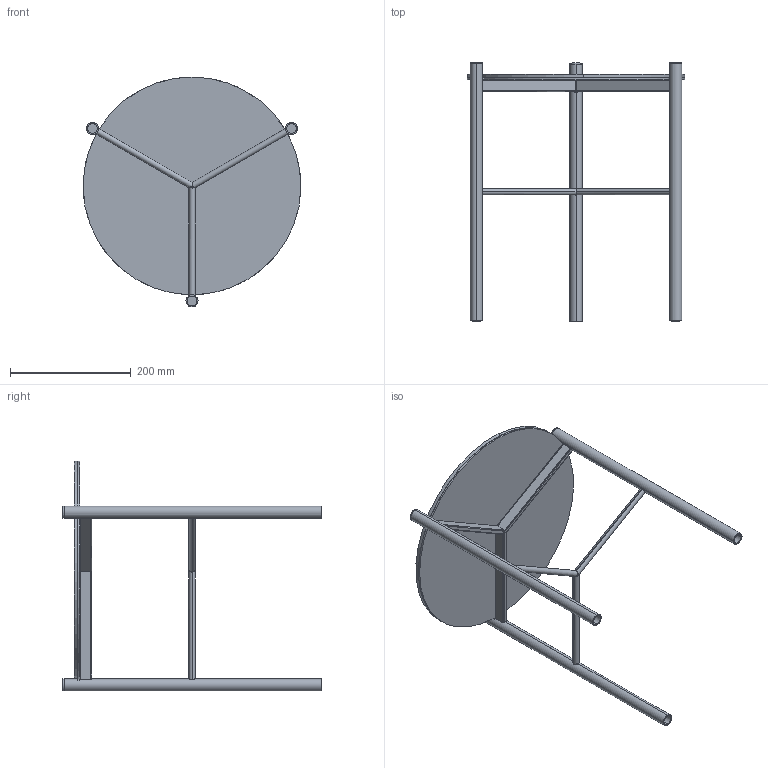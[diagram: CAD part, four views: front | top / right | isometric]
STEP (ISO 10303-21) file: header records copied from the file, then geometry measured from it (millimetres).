
FILE_DESCRIPTION (( 'STEP AP203' ), '1' );
FILE_NAME ('J501C.STEP', '2024-08-06T11:44:48', ( '' ), ( '' ), 'SwSTEP 2.0', 'SolidWorks 2022', '' );
FILE_SCHEMA (( 'CONFIG_CONTROL_DESIGN' ));
Length unit declared in the file: millimetre
Products named in the file (3): JXXXS00000000-00-jack metallo grezzo tutte le misure_J6B000001-JACK TAVOLINO D.36x41h<A macchina>; J501C; K1XCMXX-00-Piani Rotondi in ceramica_D.360
Assembly tree (2 placements, depth 2):
  J501C
    JXXXS00000000-00-jack metallo grezzo tutte le misure_J6B000001-JACK TAVOLINO D.36x41h<A macchina>
    K1XCMXX-00-Piani Rotondi in ceramica_D.360
Bounding box: 359.95 x 427 x 380.07 mm (x, y, z)
Volume: 1104595.9 mm3; surface area: 649809.4 mm2
Topology: 14 solids, 14 shells, 125 faces, 293 edges, 194 vertices
Faces by surface type: cylinder 73, plane 52
Entity records: 4516 total; most frequent: CARTESIAN_POINT 1449, ORIENTED_EDGE 586, DIRECTION 541, EDGE_CURVE 293, AXIS2_PLACEMENT_3D 196, VERTEX_POINT 194, VECTOR 149, LINE 149
